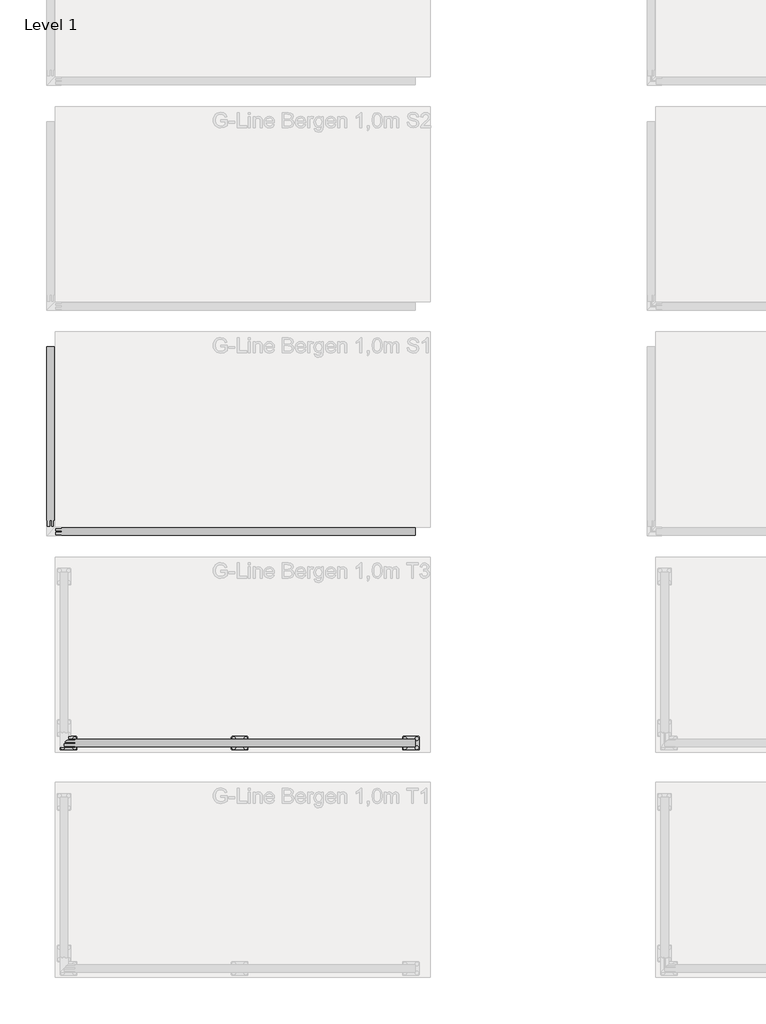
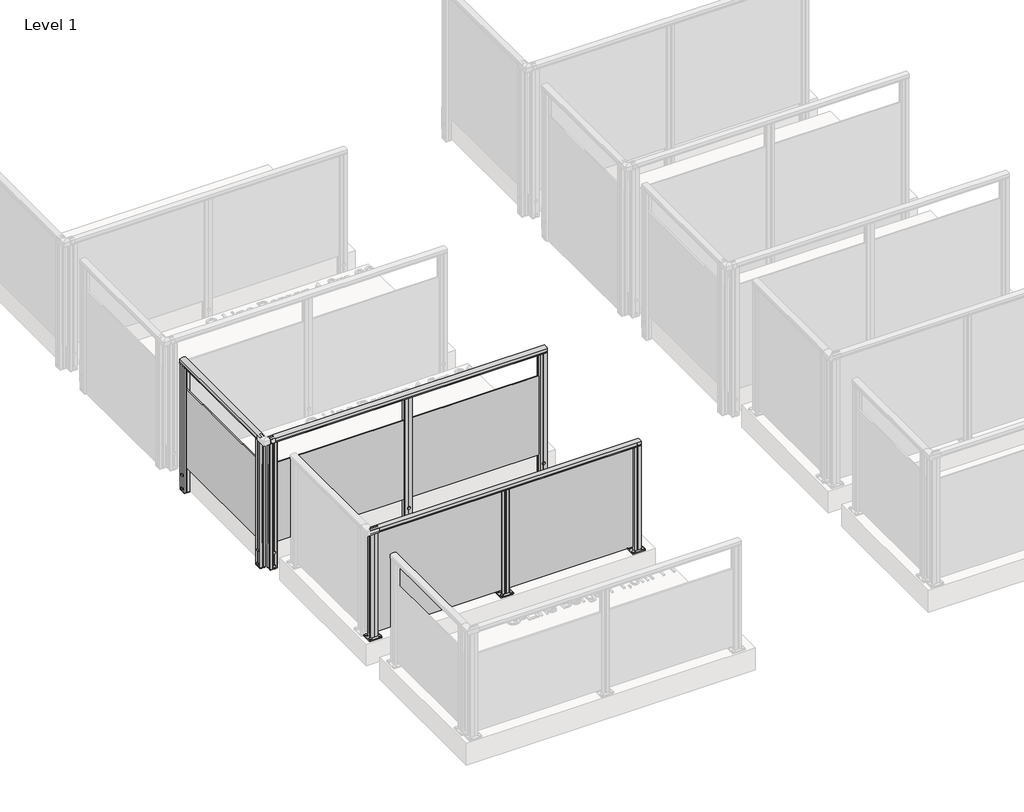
# One storey, part 18 of 66: 3 railings.
"""IFC4 building model written with IfcOpenShell, lengths in millimetres."""

from ifc_helpers import new_model, si_unit, point, frame, frame_2d, origin, origin_with_axes, place, context, project, spatial, polyline, circle_curve, trimmed, segment, composite_curve, outline, extrude, element, save

model = new_model("IFC4")

# Units and contexts
model_context = context("Model", 3, world=origin())
ifc_project = project(units=[si_unit("LENGTHUNIT", "METRE", prefix="MILLI")], contexts=[model_context])

# Site, building, storey
site = spatial("IfcSite", under=ifc_project)
building = spatial("IfcBuilding", under=site)
storey = spatial("IfcBuildingStorey", under=building, Name="Level 1", Elevation=0.0)

# Railings
placement = place(None, origin())
element("IfcRailing", 1, ObjectType="G-Line Bergen 1,0m T3", at=placement, inside=storey, context=model_context, shape_type="SweptSolid", body=[
    extrude(outline(composite_curve([segment(polyline([(-2895.1386257, 994.1390059), (-2895.1386257, 967.1990555), (-2895.7534087, 966.5842725), (-2895.1386257, 965.9694895), (-2895.1386257, 957.2498847), (-2896.8984343, 957.2498847), (-2896.8984343, 980.4998829), (-2943.8934804, 980.4998829), (-2943.8934804, 957.2498847), (-2945.6984333, 957.2498847), (-2945.6984333, 965.8194895), (-2945.0763522, 966.4415706), (-2945.658284, 967.0235023), (-2945.658284, 994.1342258)]), True, "CONTINUOUS"), segment(trimmed(circle_curve(frame_2d((-2920.393586, 942.6785502)), 57.3235687), [point((-2945.658284, 994.1342258))], [point((-2895.1386257, 994.1390059))], False, "CARTESIAN"), True, "CONTINUOUS")], self_intersect=False)), frame((4556.5263105, 0.0, 0.0), z_axis=(1.0, 0.0, 0.0), x_axis=(0.0, 1.0, 0.0)), (0.0, 0.0, 1.0), 2340.0),
    extrude(outline(polyline([(4556.5263105, -2925.4984021), (4556.5263105, -2916.7384021), (6896.5263105, -2916.7384021), (6896.5263105, -2925.4984021), (4556.5263105, -2925.4984021)])), frame((0.0, 0.0, 40.0), z_axis=(0.0, 0.0, 1.0), x_axis=(1.0, 0.0, 0.0)), (0.0, 0.0, 1.0), 940.0),
    extrude(outline(composite_curve([segment(trimmed(circle_curve(frame_2d((5686.5263105, -2951.1184021)), 11.9621755), [point((5686.5263105, -2963.0805775))], [point((5686.5263105, -2939.1562266))], False, "CARTESIAN"), True, "CONTINUOUS"), segment(trimmed(circle_curve(frame_2d((5686.5263105, -2951.1184021)), 11.9621755), [point((5686.5263105, -2939.1562266))], [point((5686.5263105, -2963.0805775))], False, "CARTESIAN"), True, "CONTINUOUS")], self_intersect=False)), frame((0.0, 0.0, 10.0), z_axis=(0.0, 0.0, 1.0), x_axis=(1.0, 0.0, 0.0)), (0.0, 0.0, 1.0), 5.0),
    extrude(outline(composite_curve([segment(trimmed(circle_curve(frame_2d((5686.5263105, -2891.1184021)), 11.9621755), [point((5686.5263105, -2903.0805775))], [point((5686.5263105, -2879.1562266))], False, "CARTESIAN"), True, "CONTINUOUS"), segment(trimmed(circle_curve(frame_2d((5686.5263105, -2891.1184021)), 11.9621755), [point((5686.5263105, -2879.1562266))], [point((5686.5263105, -2903.0805775))], False, "CARTESIAN"), True, "CONTINUOUS")], self_intersect=False)), frame((0.0, 0.0, 10.0), z_axis=(0.0, 0.0, 1.0), x_axis=(1.0, 0.0, 0.0)), (0.0, 0.0, 1.0), 5.0),
    extrude(outline(composite_curve([segment(trimmed(circle_curve(frame_2d((5766.5263105, -2951.1184021)), 11.9621755), [point((5766.5263105, -2963.0805775))], [point((5766.5263105, -2939.1562266))], False, "CARTESIAN"), True, "CONTINUOUS"), segment(trimmed(circle_curve(frame_2d((5766.5263105, -2951.1184021)), 11.9621755), [point((5766.5263105, -2939.1562266))], [point((5766.5263105, -2963.0805775))], False, "CARTESIAN"), True, "CONTINUOUS")], self_intersect=False)), frame((0.0, 0.0, 10.0), z_axis=(0.0, 0.0, 1.0), x_axis=(1.0, 0.0, 0.0)), (0.0, 0.0, 1.0), 5.0),
    extrude(outline(composite_curve([segment(trimmed(circle_curve(frame_2d((5766.5263105, -2891.1184021)), 11.9621755), [point((5766.5263105, -2903.0805775))], [point((5766.5263105, -2879.1562266))], False, "CARTESIAN"), True, "CONTINUOUS"), segment(trimmed(circle_curve(frame_2d((5766.5263105, -2891.1184021)), 11.9621755), [point((5766.5263105, -2879.1562266))], [point((5766.5263105, -2903.0805775))], False, "CARTESIAN"), True, "CONTINUOUS")], self_intersect=False)), frame((0.0, 0.0, 10.0), z_axis=(0.0, 0.0, 1.0), x_axis=(1.0, 0.0, 0.0)), (0.0, 0.0, 1.0), 5.0),
    extrude(outline(composite_curve([segment(trimmed(circle_curve(frame_2d((5676.5263105, -2881.1184021)), 5.0), [point((5671.5263105, -2881.1184021))], [point((5676.5263105, -2876.1184021))], False, "CARTESIAN"), True, "CONTINUOUS"), segment(polyline([(5676.5263105, -2876.1184021), (5776.5263105, -2876.1184021)]), True, "CONTINUOUS"), segment(trimmed(circle_curve(frame_2d((5776.5263105, -2881.1184021)), 5.0), [point((5776.5263105, -2876.1184021))], [point((5781.5263105, -2881.1184021))], False, "CARTESIAN"), True, "CONTINUOUS"), segment(polyline([(5781.5263105, -2881.1184021), (5781.5263105, -2961.1184021)]), True, "CONTINUOUS"), segment(trimmed(circle_curve(frame_2d((5776.5263105, -2961.1184021)), 5.0), [point((5781.5263105, -2961.1184021))], [point((5776.5263105, -2966.1184021))], False, "CARTESIAN"), True, "CONTINUOUS"), segment(polyline([(5776.5263105, -2966.1184021), (5676.5263105, -2966.1184021)]), True, "CONTINUOUS"), segment(trimmed(circle_curve(frame_2d((5676.5263105, -2961.1184021)), 5.0), [point((5676.5263105, -2966.1184021))], [point((5671.5263105, -2961.1184021))], False, "CARTESIAN"), True, "CONTINUOUS"), segment(polyline([(5671.5263105, -2961.1184021), (5671.5263105, -2881.1184021)]), True, "CONTINUOUS")], self_intersect=False), holes=[composite_curve([segment(trimmed(circle_curve(frame_2d((5686.5263105, -2891.1184021)), 6.25), [point((5686.5263105, -2897.3684021))], [point((5686.5263105, -2884.8684021))], True, "CARTESIAN"), True, "CONTINUOUS"), segment(trimmed(circle_curve(frame_2d((5686.5263105, -2891.1184021)), 6.25), [point((5686.5263105, -2884.8684021))], [point((5686.5263105, -2897.3684021))], True, "CARTESIAN"), True, "CONTINUOUS")], self_intersect=False), composite_curve([segment(trimmed(circle_curve(frame_2d((5686.5263105, -2951.1184021)), 6.25), [point((5686.5263105, -2957.3684021))], [point((5686.5263105, -2944.8684021))], True, "CARTESIAN"), True, "CONTINUOUS"), segment(trimmed(circle_curve(frame_2d((5686.5263105, -2951.1184021)), 6.25), [point((5686.5263105, -2944.8684021))], [point((5686.5263105, -2957.3684021))], True, "CARTESIAN"), True, "CONTINUOUS")], self_intersect=False), composite_curve([segment(trimmed(circle_curve(frame_2d((5766.5263105, -2951.1184021)), 6.25), [point((5766.5263105, -2957.3684021))], [point((5766.5263105, -2944.8684021))], True, "CARTESIAN"), True, "CONTINUOUS"), segment(trimmed(circle_curve(frame_2d((5766.5263105, -2951.1184021)), 6.25), [point((5766.5263105, -2944.8684021))], [point((5766.5263105, -2957.3684021))], True, "CARTESIAN"), True, "CONTINUOUS")], self_intersect=False), composite_curve([segment(trimmed(circle_curve(frame_2d((5766.5263105, -2891.1184021)), 6.25), [point((5766.5263105, -2897.3684021))], [point((5766.5263105, -2884.8684021))], True, "CARTESIAN"), True, "CONTINUOUS"), segment(trimmed(circle_curve(frame_2d((5766.5263105, -2891.1184021)), 6.25), [point((5766.5263105, -2884.8684021))], [point((5766.5263105, -2897.3684021))], True, "CARTESIAN"), True, "CONTINUOUS")], self_intersect=False)]), origin_with_axes(), (0.0, 0.0, 1.0), 10.0),
    extrude(outline(polyline([(5756.5247174, -2925.464264), (5756.5273896, -2943.6092639), (5727.5604026, -2943.6135298), (5726.5319584, -2942.5853885), (5725.5438599, -2943.5737781), (5696.5273844, -2943.5780513), (5696.5247181, -2925.4731002), (5714.0247179, -2925.470523), (5714.0234278, -2916.7105231), (5696.523428, -2916.7131003), (5696.5207632, -2898.6181005), (5725.4877501, -2898.6138345), (5726.525618, -2899.5321669), (5727.4037815, -2898.6537448), (5756.5207684, -2898.6494567), (5756.5234273, -2916.7042641), (5739.0234275, -2916.7068414), (5739.0247176, -2925.4668413), (5756.5247174, -2925.464264)]), holes=[polyline([(5717.7270955, -2900.6123864), (5717.7270955, -2941.6149779), (5735.3210573, -2941.6149779), (5735.3210573, -2900.6123864), (5717.7270955, -2900.6123864)]), polyline([(5698.5270957, -2927.4702726), (5698.5270957, -2941.6178055), (5715.7250124, -2941.6178055), (5715.7250124, -2927.4702726), (5698.5270957, -2927.4702726)]), polyline([(5698.5231335, -2900.6123864), (5698.5231335, -2914.7128058), (5715.7210571, -2914.7128058), (5715.7210571, -2900.6123864), (5698.5231335, -2900.6123864)]), polyline([(5737.3270953, -2927.4645586), (5737.3270953, -2941.6120914), (5754.525012, -2941.6120914), (5754.525012, -2927.4645586), (5737.3270953, -2927.4645586)]), polyline([(5737.323133, -2900.5595589), (5737.323133, -2914.7070917), (5754.5210497, -2914.7070917), (5754.5210497, -2900.5595589), (5737.323133, -2900.5595589)])]), frame((0.0, 0.0, 10.0), z_axis=(0.0, 0.0, 1.0), x_axis=(1.0, 0.0, 0.0)), (0.0, 0.0, 1.0), 971.0),
    extrude(outline(composite_curve([segment(trimmed(circle_curve(frame_2d((6826.5263105, -2951.1184021)), 11.9621755), [point((6826.5263105, -2963.0805775))], [point((6826.5263105, -2939.1562266))], False, "CARTESIAN"), True, "CONTINUOUS"), segment(trimmed(circle_curve(frame_2d((6826.5263105, -2951.1184021)), 11.9621755), [point((6826.5263105, -2939.1562266))], [point((6826.5263105, -2963.0805775))], False, "CARTESIAN"), True, "CONTINUOUS")], self_intersect=False)), frame((0.0, 0.0, 10.0), z_axis=(0.0, 0.0, 1.0), x_axis=(1.0, 0.0, 0.0)), (0.0, 0.0, 1.0), 5.0),
    extrude(outline(composite_curve([segment(trimmed(circle_curve(frame_2d((6826.5263105, -2891.1184021)), 11.9621755), [point((6826.5263105, -2903.0805775))], [point((6826.5263105, -2879.1562266))], False, "CARTESIAN"), True, "CONTINUOUS"), segment(trimmed(circle_curve(frame_2d((6826.5263105, -2891.1184021)), 11.9621755), [point((6826.5263105, -2879.1562266))], [point((6826.5263105, -2903.0805775))], False, "CARTESIAN"), True, "CONTINUOUS")], self_intersect=False)), frame((0.0, 0.0, 10.0), z_axis=(0.0, 0.0, 1.0), x_axis=(1.0, 0.0, 0.0)), (0.0, 0.0, 1.0), 5.0),
    extrude(outline(composite_curve([segment(trimmed(circle_curve(frame_2d((6906.5263105, -2951.1184021)), 11.9621755), [point((6906.5263105, -2963.0805775))], [point((6906.5263105, -2939.1562266))], False, "CARTESIAN"), True, "CONTINUOUS"), segment(trimmed(circle_curve(frame_2d((6906.5263105, -2951.1184021)), 11.9621755), [point((6906.5263105, -2939.1562266))], [point((6906.5263105, -2963.0805775))], False, "CARTESIAN"), True, "CONTINUOUS")], self_intersect=False)), frame((0.0, 0.0, 10.0), z_axis=(0.0, 0.0, 1.0), x_axis=(1.0, 0.0, 0.0)), (0.0, 0.0, 1.0), 5.0),
    extrude(outline(composite_curve([segment(trimmed(circle_curve(frame_2d((6906.5263105, -2891.1184021)), 11.9621755), [point((6906.5263105, -2903.0805775))], [point((6906.5263105, -2879.1562266))], False, "CARTESIAN"), True, "CONTINUOUS"), segment(trimmed(circle_curve(frame_2d((6906.5263105, -2891.1184021)), 11.9621755), [point((6906.5263105, -2879.1562266))], [point((6906.5263105, -2903.0805775))], False, "CARTESIAN"), True, "CONTINUOUS")], self_intersect=False)), frame((0.0, 0.0, 10.0), z_axis=(0.0, 0.0, 1.0), x_axis=(1.0, 0.0, 0.0)), (0.0, 0.0, 1.0), 5.0),
    extrude(outline(composite_curve([segment(trimmed(circle_curve(frame_2d((6816.5263105, -2881.1184021)), 5.0), [point((6811.5263105, -2881.1184021))], [point((6816.5263105, -2876.1184021))], False, "CARTESIAN"), True, "CONTINUOUS"), segment(polyline([(6816.5263105, -2876.1184021), (6916.5263105, -2876.1184021)]), True, "CONTINUOUS"), segment(trimmed(circle_curve(frame_2d((6916.5263105, -2881.1184021)), 5.0), [point((6916.5263105, -2876.1184021))], [point((6921.5263105, -2881.1184021))], False, "CARTESIAN"), True, "CONTINUOUS"), segment(polyline([(6921.5263105, -2881.1184021), (6921.5263105, -2961.1184021)]), True, "CONTINUOUS"), segment(trimmed(circle_curve(frame_2d((6916.5263105, -2961.1184021)), 5.0), [point((6921.5263105, -2961.1184021))], [point((6916.5263105, -2966.1184021))], False, "CARTESIAN"), True, "CONTINUOUS"), segment(polyline([(6916.5263105, -2966.1184021), (6816.5263105, -2966.1184021)]), True, "CONTINUOUS"), segment(trimmed(circle_curve(frame_2d((6816.5263105, -2961.1184021)), 5.0), [point((6816.5263105, -2966.1184021))], [point((6811.5263105, -2961.1184021))], False, "CARTESIAN"), True, "CONTINUOUS"), segment(polyline([(6811.5263105, -2961.1184021), (6811.5263105, -2881.1184021)]), True, "CONTINUOUS")], self_intersect=False), holes=[composite_curve([segment(trimmed(circle_curve(frame_2d((6826.5263105, -2891.1184021)), 6.25), [point((6826.5263105, -2897.3684021))], [point((6826.5263105, -2884.8684021))], True, "CARTESIAN"), True, "CONTINUOUS"), segment(trimmed(circle_curve(frame_2d((6826.5263105, -2891.1184021)), 6.25), [point((6826.5263105, -2884.8684021))], [point((6826.5263105, -2897.3684021))], True, "CARTESIAN"), True, "CONTINUOUS")], self_intersect=False), composite_curve([segment(trimmed(circle_curve(frame_2d((6826.5263105, -2951.1184021)), 6.25), [point((6826.5263105, -2957.3684021))], [point((6826.5263105, -2944.8684021))], True, "CARTESIAN"), True, "CONTINUOUS"), segment(trimmed(circle_curve(frame_2d((6826.5263105, -2951.1184021)), 6.25), [point((6826.5263105, -2944.8684021))], [point((6826.5263105, -2957.3684021))], True, "CARTESIAN"), True, "CONTINUOUS")], self_intersect=False), composite_curve([segment(trimmed(circle_curve(frame_2d((6906.5263105, -2951.1184021)), 6.25), [point((6906.5263105, -2957.3684021))], [point((6906.5263105, -2944.8684021))], True, "CARTESIAN"), True, "CONTINUOUS"), segment(trimmed(circle_curve(frame_2d((6906.5263105, -2951.1184021)), 6.25), [point((6906.5263105, -2944.8684021))], [point((6906.5263105, -2957.3684021))], True, "CARTESIAN"), True, "CONTINUOUS")], self_intersect=False), composite_curve([segment(trimmed(circle_curve(frame_2d((6906.5263105, -2891.1184021)), 6.25), [point((6906.5263105, -2897.3684021))], [point((6906.5263105, -2884.8684021))], True, "CARTESIAN"), True, "CONTINUOUS"), segment(trimmed(circle_curve(frame_2d((6906.5263105, -2891.1184021)), 6.25), [point((6906.5263105, -2884.8684021))], [point((6906.5263105, -2897.3684021))], True, "CARTESIAN"), True, "CONTINUOUS")], self_intersect=False)]), origin_with_axes(), (0.0, 0.0, 1.0), 10.0),
    extrude(outline(polyline([(6896.5247174, -2925.4642641), (6896.5273896, -2943.6092639), (6867.5604026, -2943.6135298), (6866.5319584, -2942.5853885), (6865.5438599, -2943.5737781), (6836.5273844, -2943.5780513), (6836.5247181, -2925.4731002), (6854.0247179, -2925.470523), (6854.0234278, -2916.7105231), (6836.523428, -2916.7131003), (6836.5207632, -2898.6181005), (6865.4877501, -2898.6138345), (6866.525618, -2899.5321669), (6867.4037815, -2898.6537448), (6896.5207684, -2898.6494567), (6896.5234273, -2916.7042641), (6879.0234275, -2916.7068414), (6879.0247176, -2925.4668413), (6896.5247174, -2925.4642641)]), holes=[polyline([(6857.7270955, -2900.6123864), (6857.7270955, -2941.6149779), (6875.3210573, -2941.6149779), (6875.3210573, -2900.6123864), (6857.7270955, -2900.6123864)]), polyline([(6838.5270957, -2927.4702726), (6838.5270957, -2941.6178055), (6855.7250124, -2941.6178055), (6855.7250124, -2927.4702726), (6838.5270957, -2927.4702726)]), polyline([(6838.5231335, -2900.6123864), (6838.5231335, -2914.7128058), (6855.7210571, -2914.7128058), (6855.7210571, -2900.6123864), (6838.5231335, -2900.6123864)]), polyline([(6877.3270953, -2927.4645586), (6877.3270953, -2941.6120914), (6894.525012, -2941.6120914), (6894.525012, -2927.4645586), (6877.3270953, -2927.4645586)]), polyline([(6877.323133, -2900.5595589), (6877.323133, -2914.7070917), (6894.5210497, -2914.7070917), (6894.5210497, -2900.5595589), (6877.323133, -2900.5595589)])]), frame((0.0, 0.0, 10.0), z_axis=(0.0, 0.0, 1.0), x_axis=(1.0, 0.0, 0.0)), (0.0, 0.0, 1.0), 971.0),
    extrude(outline(composite_curve([segment(trimmed(circle_curve(frame_2d((4546.5263105, -2951.1184021)), 11.9621755), [point((4546.5263105, -2963.0805775))], [point((4546.5263105, -2939.1562266))], False, "CARTESIAN"), True, "CONTINUOUS"), segment(trimmed(circle_curve(frame_2d((4546.5263105, -2951.1184021)), 11.9621755), [point((4546.5263105, -2939.1562266))], [point((4546.5263105, -2963.0805775))], False, "CARTESIAN"), True, "CONTINUOUS")], self_intersect=False)), frame((0.0, 0.0, 10.0), z_axis=(0.0, 0.0, 1.0), x_axis=(1.0, 0.0, 0.0)), (0.0, 0.0, 1.0), 5.0),
    extrude(outline(composite_curve([segment(trimmed(circle_curve(frame_2d((4546.5263105, -2891.1184021)), 11.9621755), [point((4546.5263105, -2903.0805775))], [point((4546.5263105, -2879.1562266))], False, "CARTESIAN"), True, "CONTINUOUS"), segment(trimmed(circle_curve(frame_2d((4546.5263105, -2891.1184021)), 11.9621755), [point((4546.5263105, -2879.1562266))], [point((4546.5263105, -2903.0805775))], False, "CARTESIAN"), True, "CONTINUOUS")], self_intersect=False)), frame((0.0, 0.0, 10.0), z_axis=(0.0, 0.0, 1.0), x_axis=(1.0, 0.0, 0.0)), (0.0, 0.0, 1.0), 5.0),
    extrude(outline(composite_curve([segment(trimmed(circle_curve(frame_2d((4626.5263105, -2951.1184021)), 11.9621755), [point((4626.5263105, -2963.0805775))], [point((4626.5263105, -2939.1562266))], False, "CARTESIAN"), True, "CONTINUOUS"), segment(trimmed(circle_curve(frame_2d((4626.5263105, -2951.1184021)), 11.9621755), [point((4626.5263105, -2939.1562266))], [point((4626.5263105, -2963.0805775))], False, "CARTESIAN"), True, "CONTINUOUS")], self_intersect=False)), frame((0.0, 0.0, 10.0), z_axis=(0.0, 0.0, 1.0), x_axis=(1.0, 0.0, 0.0)), (0.0, 0.0, 1.0), 5.0),
    extrude(outline(composite_curve([segment(trimmed(circle_curve(frame_2d((4626.5263105, -2891.1184021)), 11.9621755), [point((4626.5263105, -2903.0805775))], [point((4626.5263105, -2879.1562266))], False, "CARTESIAN"), True, "CONTINUOUS"), segment(trimmed(circle_curve(frame_2d((4626.5263105, -2891.1184021)), 11.9621755), [point((4626.5263105, -2879.1562266))], [point((4626.5263105, -2903.0805775))], False, "CARTESIAN"), True, "CONTINUOUS")], self_intersect=False)), frame((0.0, 0.0, 10.0), z_axis=(0.0, 0.0, 1.0), x_axis=(1.0, 0.0, 0.0)), (0.0, 0.0, 1.0), 5.0),
    extrude(outline(composite_curve([segment(trimmed(circle_curve(frame_2d((4536.5263105, -2881.1184021)), 5.0), [point((4531.5263105, -2881.1184021))], [point((4536.5263105, -2876.1184021))], False, "CARTESIAN"), True, "CONTINUOUS"), segment(polyline([(4536.5263105, -2876.1184021), (4636.5263105, -2876.1184021)]), True, "CONTINUOUS"), segment(trimmed(circle_curve(frame_2d((4636.5263105, -2881.1184021)), 5.0), [point((4636.5263105, -2876.1184021))], [point((4641.5263105, -2881.1184021))], False, "CARTESIAN"), True, "CONTINUOUS"), segment(polyline([(4641.5263105, -2881.1184021), (4641.5263105, -2961.1184021)]), True, "CONTINUOUS"), segment(trimmed(circle_curve(frame_2d((4636.5263105, -2961.1184021)), 5.0), [point((4641.5263105, -2961.1184021))], [point((4636.5263105, -2966.1184021))], False, "CARTESIAN"), True, "CONTINUOUS"), segment(polyline([(4636.5263105, -2966.1184021), (4536.5263105, -2966.1184021)]), True, "CONTINUOUS"), segment(trimmed(circle_curve(frame_2d((4536.5263105, -2961.1184021)), 5.0), [point((4536.5263105, -2966.1184021))], [point((4531.5263105, -2961.1184021))], False, "CARTESIAN"), True, "CONTINUOUS"), segment(polyline([(4531.5263105, -2961.1184021), (4531.5263105, -2881.1184021)]), True, "CONTINUOUS")], self_intersect=False), holes=[composite_curve([segment(trimmed(circle_curve(frame_2d((4546.5263105, -2891.1184021)), 6.25), [point((4546.5263105, -2897.3684021))], [point((4546.5263105, -2884.8684021))], True, "CARTESIAN"), True, "CONTINUOUS"), segment(trimmed(circle_curve(frame_2d((4546.5263105, -2891.1184021)), 6.25), [point((4546.5263105, -2884.8684021))], [point((4546.5263105, -2897.3684021))], True, "CARTESIAN"), True, "CONTINUOUS")], self_intersect=False), composite_curve([segment(trimmed(circle_curve(frame_2d((4546.5263105, -2951.1184021)), 6.25), [point((4546.5263105, -2957.3684021))], [point((4546.5263105, -2944.8684021))], True, "CARTESIAN"), True, "CONTINUOUS"), segment(trimmed(circle_curve(frame_2d((4546.5263105, -2951.1184021)), 6.25), [point((4546.5263105, -2944.8684021))], [point((4546.5263105, -2957.3684021))], True, "CARTESIAN"), True, "CONTINUOUS")], self_intersect=False), composite_curve([segment(trimmed(circle_curve(frame_2d((4626.5263105, -2951.1184021)), 6.25), [point((4626.5263105, -2957.3684021))], [point((4626.5263105, -2944.8684021))], True, "CARTESIAN"), True, "CONTINUOUS"), segment(trimmed(circle_curve(frame_2d((4626.5263105, -2951.1184021)), 6.25), [point((4626.5263105, -2944.8684021))], [point((4626.5263105, -2957.3684021))], True, "CARTESIAN"), True, "CONTINUOUS")], self_intersect=False), composite_curve([segment(trimmed(circle_curve(frame_2d((4626.5263105, -2891.1184021)), 6.25), [point((4626.5263105, -2897.3684021))], [point((4626.5263105, -2884.8684021))], True, "CARTESIAN"), True, "CONTINUOUS"), segment(trimmed(circle_curve(frame_2d((4626.5263105, -2891.1184021)), 6.25), [point((4626.5263105, -2884.8684021))], [point((4626.5263105, -2897.3684021))], True, "CARTESIAN"), True, "CONTINUOUS")], self_intersect=False)]), origin_with_axes(), (0.0, 0.0, 1.0), 10.0),
    extrude(outline(polyline([(4616.5247174, -2925.464264), (4616.5273896, -2943.6092639), (4587.5604026, -2943.6135298), (4586.5319584, -2942.5853885), (4585.5438599, -2943.5737781), (4556.5273844, -2943.5780513), (4556.5247181, -2925.4731002), (4574.0247179, -2925.470523), (4574.0234278, -2916.7105231), (4556.523428, -2916.7131003), (4556.5207632, -2898.6181005), (4585.4877501, -2898.6138345), (4586.525618, -2899.5321669), (4587.4037815, -2898.6537448), (4616.5207684, -2898.6494567), (4616.5234273, -2916.7042641), (4599.0234275, -2916.7068413), (4599.0247176, -2925.4668413), (4616.5247174, -2925.464264)]), holes=[polyline([(4577.7270955, -2900.6123864), (4577.7270955, -2941.6149779), (4595.3210573, -2941.6149779), (4595.3210573, -2900.6123864), (4577.7270955, -2900.6123864)]), polyline([(4558.5270957, -2927.4702726), (4558.5270957, -2941.6178055), (4575.7250124, -2941.6178055), (4575.7250124, -2927.4702726), (4558.5270957, -2927.4702726)]), polyline([(4558.5231335, -2900.6123864), (4558.5231335, -2914.7128058), (4575.7210571, -2914.7128058), (4575.7210571, -2900.6123864), (4558.5231335, -2900.6123864)]), polyline([(4597.3270953, -2927.4645586), (4597.3270953, -2941.6120914), (4614.525012, -2941.6120914), (4614.525012, -2927.4645586), (4597.3270953, -2927.4645586)]), polyline([(4597.323133, -2900.5595589), (4597.323133, -2914.7070917), (4614.5210497, -2914.7070917), (4614.5210497, -2900.5595589), (4597.323133, -2900.5595589)])]), frame((0.0, 0.0, 10.0), z_axis=(0.0, 0.0, 1.0), x_axis=(1.0, 0.0, 0.0)), (0.0, 0.0, 1.0), 971.0),
])
element("IfcRailing", 2, ObjectType="G-Line Bergen 1,0m S1", at=placement, inside=storey, context=model_context, shape_type="SweptSolid", body=[
    extrude(outline(composite_curve([segment(trimmed(circle_curve(frame_2d((942.6785502, 4465.8109342)), 57.3235687), [point((994.1390059, 4491.0658945))], [point((994.1342258, 4440.5462362))], False, "CARTESIAN"), True, "CONTINUOUS"), segment(polyline([(994.1342258, 4440.5462362), (967.0235023, 4440.5462362), (966.4415706, 4441.128168), (965.8194895, 4440.5060869), (957.2498847, 4440.5060869), (957.2498847, 4442.3110398), (980.4998829, 4442.3110398), (980.4998829, 4489.306086), (957.2498847, 4489.306086), (957.2498847, 4491.0658945), (965.9694895, 4491.0658945), (966.5842725, 4490.4511115), (967.1990555, 4491.0658945), (994.1390059, 4491.0658945)]), True, "CONTINUOUS")], self_intersect=False)), frame((0.0, -1476.1184021, 0.0), z_axis=(0.0, 1.0, 0.0), x_axis=(0.0, 0.0, 1.0)), (0.0, 0.0, 1.0), 1195.0),
    extrude(outline(polyline([(4462.1463105, -281.1184021), (4470.9063105, -281.1184021), (4470.9063105, -1476.1184021), (4462.1463105, -1476.1184021), (4462.1463105, -281.1184021)])), frame((0.0, 0.0, 28.0), z_axis=(0.0, 0.0, 1.0), x_axis=(1.0, 0.0, 0.0)), (0.0, 0.0, 1.0), 722.0),
    extrude(outline(polyline([(4470.8721725, -1476.116809), (4470.8747497, -1458.6168092), (4462.1147498, -1458.6155191), (4462.1121726, -1476.1155189), (4444.0573652, -1476.11286), (4444.0616532, -1446.995873), (4444.9400753, -1446.1177096), (4444.021743, -1445.0798417), (4444.0260089, -1416.1128548), (4462.1210087, -1416.1155196), (4462.1184315, -1433.6155194), (4470.8784314, -1433.6168095), (4470.8810086, -1416.1168097), (4488.9859597, -1416.119476), (4488.9816865, -1445.1359515), (4487.9932969, -1446.12405), (4489.0214382, -1447.1524942), (4489.0171723, -1476.1194812), (4470.8721725, -1476.116809)])), frame((0.0, 0.0, -202.0233958), z_axis=(0.0, 0.0, 1.0), x_axis=(1.0, 0.0, 0.0)), (0.0, 0.0, 1.0), 2.0),
    extrude(outline(composite_curve([segment(trimmed(circle_curve(frame_2d((0.0, 12.0)), 12.0), [point((0.0, 23.9999999))], [point((0.0, 0.0))], False, "CARTESIAN"), True, "CONTINUOUS"), segment(trimmed(circle_curve(frame_2d((0.0, 12.0)), 12.0), [point((0.0, 0.0))], [point((0.0, 23.9999999))], False, "CARTESIAN"), True, "CONTINUOUS")], self_intersect=False)), frame((4444.0668454, -1434.1093645, -175.0), z_axis=(-0.9999999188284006, 0.0004029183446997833, 0.0), x_axis=(0.0, 0.0, -1.0)), (0.0, 0.0, 1.0), 3.0757477),
    extrude(outline(composite_curve([segment(trimmed(circle_curve(frame_2d((0.0, 12.0)), 12.0), [point((0.0, 23.9999999))], [point((0.0, 0.0))], False, "CARTESIAN"), True, "CONTINUOUS"), segment(trimmed(circle_curve(frame_2d((0.0, 12.0)), 12.0), [point((0.0, 0.0))], [point((0.0, 23.9999999))], False, "CARTESIAN"), True, "CONTINUOUS")], self_intersect=False)), frame((4444.0668454, -1434.1093645, -50.0), z_axis=(-0.9999999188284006, 0.0004029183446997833, 0.0), x_axis=(0.0, 0.0, -1.0)), (0.0, 0.0, 1.0), 3.0757477),
    extrude(outline(polyline([(4470.8721725, -1476.116809), (4470.8747497, -1458.6168092), (4462.1147498, -1458.6155191), (4462.1121726, -1476.1155189), (4444.0573652, -1476.11286), (4444.0616532, -1446.995873), (4444.9400753, -1446.1177096), (4444.021743, -1445.0798417), (4444.0260089, -1416.1128548), (4462.1210087, -1416.1155196), (4462.1184315, -1433.6155194), (4470.8784314, -1433.6168095), (4470.8810086, -1416.1168097), (4488.9859597, -1416.119476), (4488.9816865, -1445.1359515), (4487.9932969, -1446.12405), (4489.0214382, -1447.1524942), (4489.0171723, -1476.1194812), (4470.8721725, -1476.116809)]), holes=[polyline([(4446.0202949, -1437.3191871), (4446.0202949, -1454.9131488), (4487.0228863, -1454.9131488), (4487.0228863, -1437.3191871), (4446.0202949, -1437.3191871)]), polyline([(4472.878181, -1418.1191873), (4472.878181, -1435.317104), (4487.0257139, -1435.317104), (4487.0257139, -1418.1191873), (4472.878181, -1418.1191873)]), polyline([(4446.0202949, -1418.115225), (4446.0202949, -1435.3131487), (4460.1207142, -1435.3131487), (4460.1207142, -1418.115225), (4446.0202949, -1418.115225)]), polyline([(4472.872467, -1456.9191868), (4472.872467, -1474.1171035), (4487.0199999, -1474.1171035), (4487.0199999, -1456.9191868), (4472.872467, -1456.9191868)]), polyline([(4445.9674673, -1456.9152246), (4445.9674673, -1474.1131413), (4460.1150002, -1474.1131413), (4460.1150002, -1456.9152246), (4445.9674673, -1456.9152246)])]), frame((0.0, 0.0, -200.0), z_axis=(0.0, 0.0, 1.0), x_axis=(1.0, 0.0, 0.0)), (0.0, 0.0, 1.0), 1181.0),
    extrude(outline(polyline([(4470.8721725, -341.116809), (4470.8747497, -323.6168092), (4462.1147498, -323.6155191), (4462.1121726, -341.1155189), (4444.0573652, -341.11286), (4444.0616532, -311.995873), (4444.9400753, -311.1177096), (4444.021743, -310.0798417), (4444.0260089, -281.1128548), (4462.1210087, -281.1155196), (4462.1184315, -298.6155194), (4470.8784314, -298.6168095), (4470.8810086, -281.1168097), (4488.9859597, -281.119476), (4488.9816865, -310.1359515), (4487.9932969, -311.12405), (4489.0214382, -312.1524942), (4489.0171723, -341.1194812), (4470.8721725, -341.116809)])), frame((0.0, 0.0, -202.0233958), z_axis=(0.0, 0.0, 1.0), x_axis=(1.0, 0.0, 0.0)), (0.0, 0.0, 1.0), 2.0),
    extrude(outline(composite_curve([segment(trimmed(circle_curve(frame_2d((0.0, 12.0)), 12.0), [point((0.0, 23.9999999))], [point((0.0, 0.0))], False, "CARTESIAN"), True, "CONTINUOUS"), segment(trimmed(circle_curve(frame_2d((0.0, 12.0)), 12.0), [point((0.0, 0.0))], [point((0.0, 23.9999999))], False, "CARTESIAN"), True, "CONTINUOUS")], self_intersect=False)), frame((4444.0668454, -299.1093645, -175.0), z_axis=(-0.9999999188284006, 0.0004029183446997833, 0.0), x_axis=(0.0, 0.0, -1.0)), (0.0, 0.0, 1.0), 3.0757477),
    extrude(outline(composite_curve([segment(trimmed(circle_curve(frame_2d((0.0, 12.0)), 12.0), [point((0.0, 23.9999999))], [point((0.0, 0.0))], False, "CARTESIAN"), True, "CONTINUOUS"), segment(trimmed(circle_curve(frame_2d((0.0, 12.0)), 12.0), [point((0.0, 0.0))], [point((0.0, 23.9999999))], False, "CARTESIAN"), True, "CONTINUOUS")], self_intersect=False)), frame((4444.0668454, -299.1093645, -50.0), z_axis=(-0.9999999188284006, 0.0004029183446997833, 0.0), x_axis=(0.0, 0.0, -1.0)), (0.0, 0.0, 1.0), 3.0757477),
    extrude(outline(polyline([(4470.8721725, -341.116809), (4470.8747497, -323.6168092), (4462.1147498, -323.6155191), (4462.1121726, -341.1155189), (4444.0573652, -341.11286), (4444.0616532, -311.995873), (4444.9400753, -311.1177096), (4444.021743, -310.0798417), (4444.0260089, -281.1128548), (4462.1210087, -281.1155196), (4462.1184315, -298.6155194), (4470.8784314, -298.6168095), (4470.8810086, -281.1168097), (4488.9859597, -281.119476), (4488.9816865, -310.1359515), (4487.9932969, -311.12405), (4489.0214382, -312.1524942), (4489.0171723, -341.1194812), (4470.8721725, -341.116809)]), holes=[polyline([(4446.0202949, -302.3191871), (4446.0202949, -319.9131488), (4487.0228863, -319.9131488), (4487.0228863, -302.3191871), (4446.0202949, -302.3191871)]), polyline([(4472.878181, -283.1191873), (4472.878181, -300.317104), (4487.0257139, -300.317104), (4487.0257139, -283.1191873), (4472.878181, -283.1191873)]), polyline([(4446.0202949, -283.115225), (4446.0202949, -300.3131487), (4460.1207142, -300.3131487), (4460.1207142, -283.115225), (4446.0202949, -283.115225)]), polyline([(4472.872467, -321.9191868), (4472.872467, -339.1171035), (4487.0199999, -339.1171035), (4487.0199999, -321.9191868), (4472.872467, -321.9191868)]), polyline([(4445.9674673, -321.9152246), (4445.9674673, -339.1131413), (4460.1150002, -339.1131413), (4460.1150002, -321.9152246), (4445.9674673, -321.9152246)])]), frame((0.0, 0.0, -200.0), z_axis=(0.0, 0.0, 1.0), x_axis=(1.0, 0.0, 0.0)), (0.0, 0.0, 1.0), 1181.0),
])
element("IfcRailing", 3, ObjectType="G-Line Bergen 1,0m S1", at=placement, inside=storey, context=model_context, shape_type="SweptSolid", body=[
    extrude(outline(composite_curve([segment(polyline([(-1486.5788181, 994.1390059), (-1486.5788181, 967.1990555), (-1487.1936011, 966.5842725), (-1486.5788181, 965.9694895), (-1486.5788181, 957.2498847), (-1488.3386266, 957.2498847), (-1488.3386266, 980.4998829), (-1535.3336728, 980.4998829), (-1535.3336728, 957.2498847), (-1537.1386257, 957.2498847), (-1537.1386257, 965.8194895), (-1536.5165446, 966.4415706), (-1537.0984763, 967.0235023), (-1537.0984763, 994.1342258)]), True, "CONTINUOUS"), segment(trimmed(circle_curve(frame_2d((-1511.8337784, 942.6785502)), 57.3235687), [point((-1537.0984763, 994.1342258))], [point((-1486.5788181, 994.1390059))], False, "CARTESIAN"), True, "CONTINUOUS")], self_intersect=False)), frame((4501.5263105, 0.0, 0.0), z_axis=(1.0, 0.0, 0.0), x_axis=(0.0, 1.0, 0.0)), (0.0, 0.0, 1.0), 2395.0),
    extrude(outline(polyline([(4501.5263105, -1515.4984021), (4501.5263105, -1506.7384021), (6896.5263105, -1506.7384021), (6896.5263105, -1515.4984021), (4501.5263105, -1515.4984021)])), frame((0.0, 0.0, 28.0), z_axis=(0.0, 0.0, 1.0), x_axis=(1.0, 0.0, 0.0)), (0.0, 0.0, 1.0), 722.0),
    extrude(outline(polyline([(5729.0247174, -1506.7725401), (5711.5247176, -1506.7699629), (5711.5234275, -1515.5299628), (5729.0234273, -1515.53254), (5729.0207684, -1533.5873474), (5699.9037815, -1533.5830594), (5699.025618, -1532.7046373), (5697.9877501, -1533.6229696), (5669.0207632, -1533.6187037), (5669.023428, -1515.5237039), (5686.5234278, -1515.5262811), (5686.5247179, -1506.7662812), (5669.0247181, -1506.763704), (5669.0273844, -1488.6587529), (5698.0438599, -1488.6630261), (5699.0319584, -1489.6514157), (5700.0604026, -1488.6232744), (5729.0273896, -1488.6275403), (5729.0247174, -1506.7725401)])), frame((0.0, 0.0, -202.0233958), z_axis=(0.0, 0.0, 1.0), x_axis=(1.0, 0.0, 0.0)), (0.0, 0.0, 1.0), 2.0),
    extrude(outline(composite_curve([segment(trimmed(circle_curve(frame_2d((0.0, 12.0000001)), 12.0), [point((0.0, 24.0))], [point((0.0, 0.0))], False, "CARTESIAN"), True, "CONTINUOUS"), segment(trimmed(circle_curve(frame_2d((0.0, 12.0000001)), 12.0), [point((0.0, 0.0))], [point((0.0, 24.0))], False, "CARTESIAN"), True, "CONTINUOUS")], self_intersect=False)), frame((5687.0160336, -1536.6536146, -175.0), z_axis=(0.00040291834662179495, 0.9999999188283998, 0.0), x_axis=(0.0, 0.0, 1.0)), (0.0, 0.0, 1.0), 3.0757477),
    extrude(outline(composite_curve([segment(trimmed(circle_curve(frame_2d((0.0, 12.0000001)), 12.0), [point((0.0, 24.0))], [point((0.0, 0.0))], False, "CARTESIAN"), True, "CONTINUOUS"), segment(trimmed(circle_curve(frame_2d((0.0, 12.0000001)), 12.0), [point((0.0, 0.0))], [point((0.0, 24.0))], False, "CARTESIAN"), True, "CONTINUOUS")], self_intersect=False)), frame((5687.0160336, -1536.6536146, -50.0), z_axis=(0.00040291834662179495, 0.9999999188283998, 0.0), x_axis=(0.0, 0.0, 1.0)), (0.0, 0.0, 1.0), 3.0757477),
    extrude(outline(polyline([(5729.0247174, -1506.7725401), (5711.5247176, -1506.7699629), (5711.5234275, -1515.5299628), (5729.0234273, -1515.53254), (5729.0207684, -1533.5873474), (5699.9037815, -1533.5830594), (5699.025618, -1532.7046373), (5697.9877501, -1533.6229696), (5669.0207632, -1533.6187037), (5669.023428, -1515.5237039), (5686.5234278, -1515.5262811), (5686.5247179, -1506.7662812), (5669.0247181, -1506.763704), (5669.0273844, -1488.6587529), (5698.0438599, -1488.6630261), (5699.0319584, -1489.6514157), (5700.0604026, -1488.6232744), (5729.0273896, -1488.6275403), (5729.0247174, -1506.7725401)]), holes=[polyline([(5690.2270955, -1531.6244177), (5707.8210573, -1531.6244177), (5707.8210573, -1490.6218262), (5690.2270955, -1490.6218262), (5690.2270955, -1531.6244177)]), polyline([(5671.0270957, -1504.7665316), (5688.2250124, -1504.7665316), (5688.2250124, -1490.6189987), (5671.0270957, -1490.6189987), (5671.0270957, -1504.7665316)]), polyline([(5671.0231335, -1531.6244177), (5688.2210571, -1531.6244177), (5688.2210571, -1517.5239984), (5671.0231335, -1517.5239984), (5671.0231335, -1531.6244177)]), polyline([(5709.8270953, -1504.7722456), (5727.025012, -1504.7722456), (5727.025012, -1490.6247127), (5709.8270953, -1490.6247127), (5709.8270953, -1504.7722456)]), polyline([(5709.823133, -1531.6772453), (5727.0210497, -1531.6772453), (5727.0210497, -1517.5297124), (5709.823133, -1517.5297124), (5709.823133, -1531.6772453)])]), frame((0.0, 0.0, -200.0), z_axis=(0.0, 0.0, 1.0), x_axis=(1.0, 0.0, 0.0)), (0.0, 0.0, 1.0), 1181.0),
    extrude(outline(polyline([(6896.5247174, -1506.7725401), (6879.0247176, -1506.7699629), (6879.0234275, -1515.5299628), (6896.5234273, -1515.53254), (6896.5207684, -1533.5873474), (6867.4037815, -1533.5830594), (6866.525618, -1532.7046373), (6865.4877501, -1533.6229696), (6836.5207632, -1533.6187037), (6836.523428, -1515.5237039), (6854.0234278, -1515.5262811), (6854.0247179, -1506.7662812), (6836.5247181, -1506.763704), (6836.5273844, -1488.6587529), (6865.5438599, -1488.6630261), (6866.5319584, -1489.6514157), (6867.5604026, -1488.6232744), (6896.5273896, -1488.6275403), (6896.5247174, -1506.7725401)])), frame((0.0, 0.0, -202.0233958), z_axis=(0.0, 0.0, 1.0), x_axis=(1.0, 0.0, 0.0)), (0.0, 0.0, 1.0), 2.0),
    extrude(outline(composite_curve([segment(trimmed(circle_curve(frame_2d((0.0, 12.0000001)), 12.0), [point((0.0, 24.0))], [point((0.0, 0.0))], False, "CARTESIAN"), True, "CONTINUOUS"), segment(trimmed(circle_curve(frame_2d((0.0, 12.0000001)), 12.0), [point((0.0, 0.0))], [point((0.0, 24.0))], False, "CARTESIAN"), True, "CONTINUOUS")], self_intersect=False)), frame((6854.5160336, -1536.6536146, -175.0), z_axis=(0.00040291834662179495, 0.9999999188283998, 0.0), x_axis=(0.0, 0.0, 1.0)), (0.0, 0.0, 1.0), 3.0757477),
    extrude(outline(composite_curve([segment(trimmed(circle_curve(frame_2d((0.0, 12.0000001)), 12.0), [point((0.0, 24.0))], [point((0.0, 0.0))], False, "CARTESIAN"), True, "CONTINUOUS"), segment(trimmed(circle_curve(frame_2d((0.0, 12.0000001)), 12.0), [point((0.0, 0.0))], [point((0.0, 24.0))], False, "CARTESIAN"), True, "CONTINUOUS")], self_intersect=False)), frame((6854.5160336, -1536.6536146, -50.0), z_axis=(0.00040291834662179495, 0.9999999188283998, 0.0), x_axis=(0.0, 0.0, 1.0)), (0.0, 0.0, 1.0), 3.0757477),
    extrude(outline(polyline([(6896.5247174, -1506.7725401), (6879.0247176, -1506.7699629), (6879.0234275, -1515.5299628), (6896.5234273, -1515.53254), (6896.5207684, -1533.5873474), (6867.4037815, -1533.5830594), (6866.525618, -1532.7046373), (6865.4877501, -1533.6229696), (6836.5207632, -1533.6187037), (6836.523428, -1515.5237039), (6854.0234278, -1515.5262811), (6854.0247179, -1506.7662812), (6836.5247181, -1506.763704), (6836.5273844, -1488.6587529), (6865.5438599, -1488.6630261), (6866.5319584, -1489.6514157), (6867.5604026, -1488.6232744), (6896.5273896, -1488.6275403), (6896.5247174, -1506.7725401)]), holes=[polyline([(6857.7270955, -1531.6244177), (6875.3210573, -1531.6244177), (6875.3210573, -1490.6218263), (6857.7270955, -1490.6218263), (6857.7270955, -1531.6244177)]), polyline([(6838.5270957, -1504.7665316), (6855.7250124, -1504.7665316), (6855.7250124, -1490.6189987), (6838.5270957, -1490.6189987), (6838.5270957, -1504.7665316)]), polyline([(6838.5231335, -1531.6244177), (6855.7210571, -1531.6244177), (6855.7210571, -1517.5239984), (6838.5231335, -1517.5239984), (6838.5231335, -1531.6244177)]), polyline([(6877.3270953, -1504.7722456), (6894.525012, -1504.7722456), (6894.525012, -1490.6247127), (6877.3270953, -1490.6247127), (6877.3270953, -1504.7722456)]), polyline([(6877.323133, -1531.6772453), (6894.5210497, -1531.6772453), (6894.5210497, -1517.5297124), (6877.323133, -1517.5297124), (6877.323133, -1531.6772453)])]), frame((0.0, 0.0, -200.0), z_axis=(0.0, 0.0, 1.0), x_axis=(1.0, 0.0, 0.0)), (0.0, 0.0, 1.0), 1181.0),
    extrude(outline(polyline([(4561.5247174, -1506.7725401), (4544.0247176, -1506.7699629), (4544.0234275, -1515.5299628), (4561.5234273, -1515.53254), (4561.5207684, -1533.5873474), (4532.4037815, -1533.5830594), (4531.525618, -1532.7046373), (4530.4877501, -1533.6229696), (4501.5207632, -1533.6187037), (4501.523428, -1515.5237039), (4519.0234278, -1515.5262811), (4519.0247179, -1506.7662812), (4501.5247181, -1506.763704), (4501.5273844, -1488.6587529), (4530.5438599, -1488.6630261), (4531.5319584, -1489.6514157), (4532.5604026, -1488.6232744), (4561.5273896, -1488.6275403), (4561.5247174, -1506.7725401)])), frame((0.0, 0.0, -202.0233958), z_axis=(0.0, 0.0, 1.0), x_axis=(1.0, 0.0, 0.0)), (0.0, 0.0, 1.0), 2.0),
    extrude(outline(composite_curve([segment(trimmed(circle_curve(frame_2d((0.0, 12.0000001)), 12.0), [point((0.0, 24.0))], [point((0.0, 0.0))], False, "CARTESIAN"), True, "CONTINUOUS"), segment(trimmed(circle_curve(frame_2d((0.0, 12.0000001)), 12.0), [point((0.0, 0.0))], [point((0.0, 24.0))], False, "CARTESIAN"), True, "CONTINUOUS")], self_intersect=False)), frame((4519.5160336, -1536.6536146, -175.0), z_axis=(0.00040291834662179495, 0.9999999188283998, 0.0), x_axis=(0.0, 0.0, 1.0)), (0.0, 0.0, 1.0), 3.0757477),
    extrude(outline(composite_curve([segment(trimmed(circle_curve(frame_2d((0.0, 12.0000001)), 12.0), [point((0.0, 24.0))], [point((0.0, 0.0))], False, "CARTESIAN"), True, "CONTINUOUS"), segment(trimmed(circle_curve(frame_2d((0.0, 12.0000001)), 12.0), [point((0.0, 0.0))], [point((0.0, 24.0))], False, "CARTESIAN"), True, "CONTINUOUS")], self_intersect=False)), frame((4519.5160336, -1536.6536146, -50.0), z_axis=(0.00040291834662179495, 0.9999999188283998, 0.0), x_axis=(0.0, 0.0, 1.0)), (0.0, 0.0, 1.0), 3.0757477),
    extrude(outline(polyline([(4561.5247174, -1506.7725401), (4544.0247176, -1506.7699629), (4544.0234275, -1515.5299628), (4561.5234273, -1515.53254), (4561.5207684, -1533.5873474), (4532.4037815, -1533.5830594), (4531.525618, -1532.7046373), (4530.4877501, -1533.6229696), (4501.5207632, -1533.6187037), (4501.523428, -1515.5237039), (4519.0234278, -1515.5262811), (4519.0247179, -1506.7662812), (4501.5247181, -1506.763704), (4501.5273844, -1488.6587529), (4530.5438599, -1488.6630261), (4531.5319584, -1489.6514157), (4532.5604026, -1488.6232744), (4561.5273896, -1488.6275403), (4561.5247174, -1506.7725401)]), holes=[polyline([(4522.7270955, -1531.6244177), (4540.3210573, -1531.6244177), (4540.3210573, -1490.6218262), (4522.7270955, -1490.6218262), (4522.7270955, -1531.6244177)]), polyline([(4503.5270957, -1504.7665316), (4520.7250124, -1504.7665316), (4520.7250124, -1490.6189987), (4503.5270957, -1490.6189987), (4503.5270957, -1504.7665316)]), polyline([(4503.5231335, -1531.6244177), (4520.7210571, -1531.6244177), (4520.7210571, -1517.5239984), (4503.5231335, -1517.5239984), (4503.5231335, -1531.6244177)]), polyline([(4542.3270953, -1504.7722456), (4559.525012, -1504.7722456), (4559.525012, -1490.6247127), (4542.3270953, -1490.6247127), (4542.3270953, -1504.7722456)]), polyline([(4542.323133, -1531.6772453), (4559.5210497, -1531.6772453), (4559.5210497, -1517.5297124), (4542.323133, -1517.5297124), (4542.323133, -1531.6772453)])]), frame((0.0, 0.0, -200.0), z_axis=(0.0, 0.0, 1.0), x_axis=(1.0, 0.0, 0.0)), (0.0, 0.0, 1.0), 1181.0),
])

save(model, "model.ifc")
